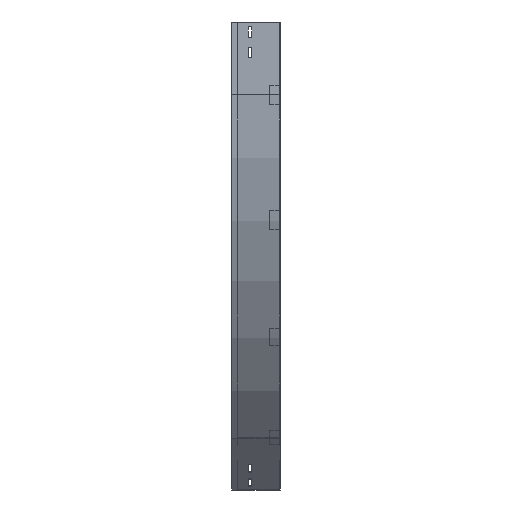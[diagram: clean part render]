
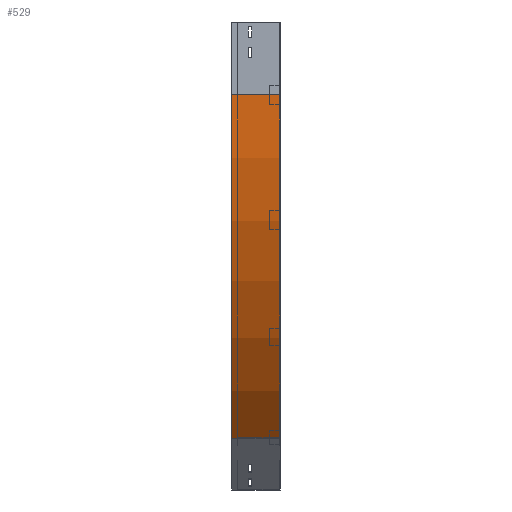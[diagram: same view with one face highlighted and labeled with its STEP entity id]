
A CAD part, left-side view. The second image highlights one B-rep face of the part: STEP entity #529.
In plain terms, the highlighted cylindrical face has radius 1000 mm (diameter 2000 mm), a partial arc.
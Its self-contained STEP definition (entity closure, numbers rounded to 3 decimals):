
#42 = CARTESIAN_POINT ( 'NONE',  ( 0., 100., -150. ) ) ;
#72 = EDGE_CURVE ( 'NONE', #548, #1418, #1466, .T. ) ;
#92 = AXIS2_PLACEMENT_3D ( 'NONE', #2950, #3539, #581 ) ;
#168 = CARTESIAN_POINT ( 'NONE',  ( 292.893, 100., -857.107 ) ) ;
#195 = LINE ( 'NONE', #2170, #2320 ) ;
#393 = AXIS2_PLACEMENT_3D ( 'NONE', #1534, #1160, #2728 ) ;
#402 = ORIENTED_EDGE ( 'NONE', *, *, #72, .T. ) ;
#529 = ADVANCED_FACE ( 'NONE', ( #1773 ), #3019, .T. ) ;
#548 = VERTEX_POINT ( 'NONE', #42 ) ;
#581 = DIRECTION ( 'NONE',  ( -1., 0., 0. ) ) ;
#739 = DIRECTION ( 'NONE',  ( -1., 0., 0. ) ) ;
#782 = VERTEX_POINT ( 'NONE', #1482 ) ;
#994 = DIRECTION ( 'NONE',  ( 0., -1., 0. ) ) ;
#1035 = CARTESIAN_POINT ( 'NONE',  ( 1000., 0., -150. ) ) ;
#1131 = ORIENTED_EDGE ( 'NONE', *, *, #3522, .F. ) ;
#1160 = DIRECTION ( 'NONE',  ( 0., -1., 0. ) ) ;
#1238 = EDGE_LOOP ( 'NONE', ( #1131, #1581, #402, #3512 ) ) ;
#1418 = VERTEX_POINT ( 'NONE', #168 ) ;
#1466 = CIRCLE ( 'NONE', #92, 1000. ) ;
#1482 = CARTESIAN_POINT ( 'NONE',  ( 292.893, 0., -857.107 ) ) ;
#1534 = CARTESIAN_POINT ( 'NONE',  ( 1000., 0., -150. ) ) ;
#1581 = ORIENTED_EDGE ( 'NONE', *, *, #2072, .F. ) ;
#1751 = AXIS2_PLACEMENT_3D ( 'NONE', #1035, #3412, #739 ) ;
#1773 = FACE_OUTER_BOUND ( 'NONE', #1238, .T. ) ;
#2072 = EDGE_CURVE ( 'NONE', #548, #3428, #2541, .T. ) ;
#2170 = CARTESIAN_POINT ( 'NONE',  ( 292.893, 0., -857.107 ) ) ;
#2181 = EDGE_CURVE ( 'NONE', #1418, #782, #195, .T. ) ;
#2320 = VECTOR ( 'NONE', #3468, 1000. ) ;
#2541 = LINE ( 'NONE', #3660, #3497 ) ;
#2728 = DIRECTION ( 'NONE',  ( 0., 0., -1. ) ) ;
#2950 = CARTESIAN_POINT ( 'NONE',  ( 1000., 100., -150. ) ) ;
#2995 = CIRCLE ( 'NONE', #1751, 1000. ) ;
#3019 = CYLINDRICAL_SURFACE ( 'NONE', #393, 1000. ) ;
#3127 = CARTESIAN_POINT ( 'NONE',  ( 0., 0., -150. ) ) ;
#3412 = DIRECTION ( 'NONE',  ( 0., -1., 0. ) ) ;
#3428 = VERTEX_POINT ( 'NONE', #3127 ) ;
#3468 = DIRECTION ( 'NONE',  ( 0., -1., 0. ) ) ;
#3497 = VECTOR ( 'NONE', #994, 1000. ) ;
#3512 = ORIENTED_EDGE ( 'NONE', *, *, #2181, .T. ) ;
#3522 = EDGE_CURVE ( 'NONE', #3428, #782, #2995, .T. ) ;
#3539 = DIRECTION ( 'NONE',  ( 0., -1., 0. ) ) ;
#3660 = CARTESIAN_POINT ( 'NONE',  ( 0., 0., -150. ) ) ;
